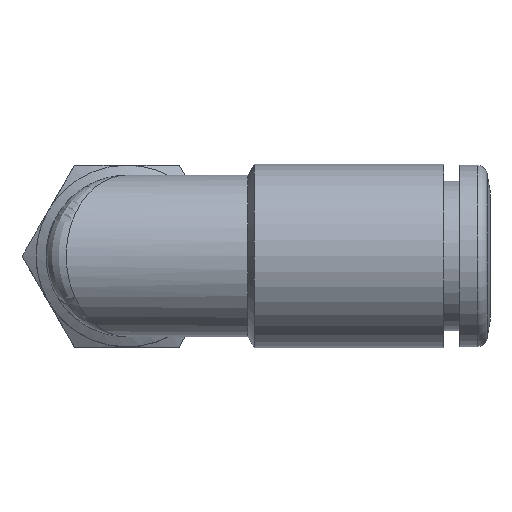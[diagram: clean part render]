
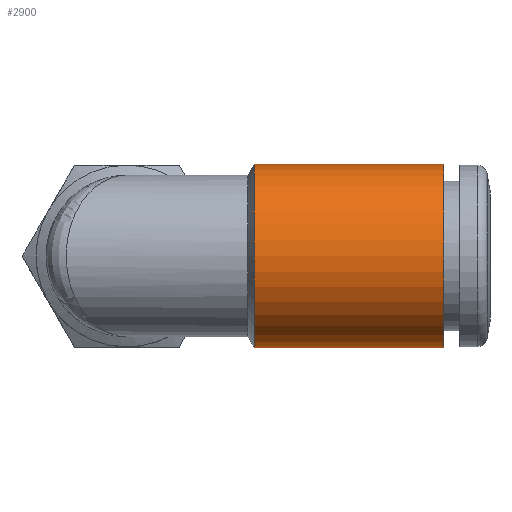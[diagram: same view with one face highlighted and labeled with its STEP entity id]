
A CAD part, top view. The second image highlights one B-rep face of the part: STEP entity #2900.
In plain terms, the highlighted cylindrical face has radius 4.55 mm (diameter 9.1 mm), a full revolution.
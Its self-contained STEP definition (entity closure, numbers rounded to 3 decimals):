
#2900=ADVANCED_FACE('', (#2910,#2920), #2930, .T.);
#8310=AXIS2_PLACEMENT_3D('Ax2Pl3d', #8320, #8330, #8340);
#9070=AXIS2_PLACEMENT_3D('Ax2Pl3d', #9080, #9090, #9100);
#9110=AXIS2_PLACEMENT_3D('Ax2Pl3d', #9120, #9130, #9140);
#8320=CARTESIAN_POINT('HicPkt', (24.991,6.085,
16.862));
#21840=CARTESIAN_POINT('', (24.991,6.085,21.412));
#9080=CARTESIAN_POINT('HicPkt', (15.609,6.085,
16.862));
#9120=CARTESIAN_POINT('HicPkt', (15.609,6.085,
16.862));
#21960=CARTESIAN_POINT('', (15.609,6.085,21.412));
#22560=CIRCLE('Circle', #8310, 4.55);
#22640=CIRCLE('Circle', #9110, 4.55);
#2930=CYLINDRICAL_SURFACE('Zyl', #9070, 4.55);
#8330=DIRECTION('Axis', (1.,0.,0.));
#8340=DIRECTION('RefDirection', (0.,0.,-1.));
#9090=DIRECTION('Axis', (1.,0.,0.));
#9100=DIRECTION('RefDirection', (0.,0.,-1.));
#9130=DIRECTION('Axis', (1.,0.,0.));
#9140=DIRECTION('RefDirection', (0.,0.,-1.));
#27290=EDGE_CURVE('', #27300, #27300, #22560, .T.);
#27630=EDGE_CURVE('', #27640, #27640, #22640, .T.);
#30910=EDGE_LOOP('Edge_loop', (#30920));
#30930=EDGE_LOOP('Edge_loop', (#30940));
#2920=FACE_BOUND('', #30930, .T.);
#2910=FACE_OUTER_BOUND('Face_outer_bound', #30910, .T.);
#30920=ORIENTED_EDGE('', *, *, #27290, .F.);
#30940=ORIENTED_EDGE('', *, *, #27630, .T.);
#27300=VERTEX_POINT('', #21840);
#27640=VERTEX_POINT('', #21960);
